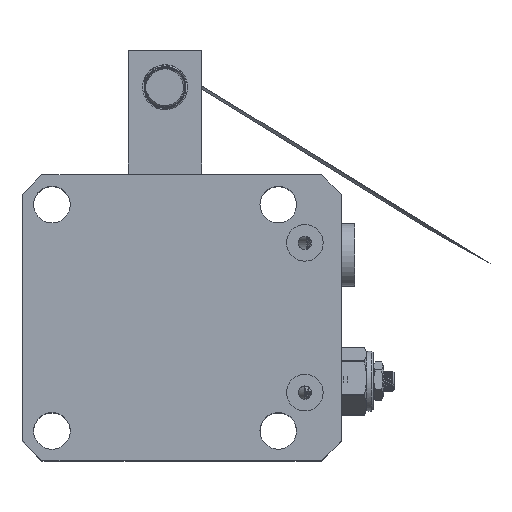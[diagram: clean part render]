
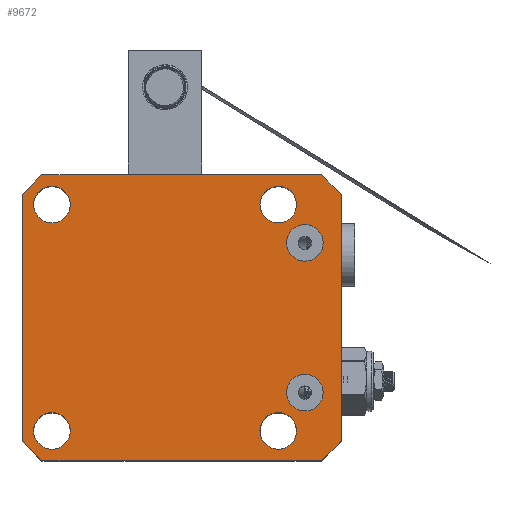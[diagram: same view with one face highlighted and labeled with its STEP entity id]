
A CAD part, top view. The second image highlights one B-rep face of the part: STEP entity #9672.
In plain terms, the highlighted planar face has unit normal (0, 0, 1).
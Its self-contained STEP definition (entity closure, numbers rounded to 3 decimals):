
#1364=FACE_BOUND('',#2186,.T.);
#1365=FACE_BOUND('',#2187,.T.);
#1366=FACE_BOUND('',#2188,.T.);
#1367=FACE_BOUND('',#2189,.T.);
#1368=FACE_BOUND('',#2190,.T.);
#1369=FACE_BOUND('',#2191,.T.);
#1436=PLANE('',#10581);
#1635=FACE_OUTER_BOUND('',#2185,.T.);
#2185=EDGE_LOOP('',(#6900,#6901,#6902,#6903,#6904,#6905,#6906,#6907));
#2186=EDGE_LOOP('',(#6908));
#2187=EDGE_LOOP('',(#6909));
#2188=EDGE_LOOP('',(#6910));
#2189=EDGE_LOOP('',(#6911));
#2190=EDGE_LOOP('',(#6912));
#2191=EDGE_LOOP('',(#6913));
#2801=LINE('',#15555,#3331);
#2802=LINE('',#15557,#3332);
#2803=LINE('',#15559,#3333);
#2804=LINE('',#15561,#3334);
#2805=LINE('',#15563,#3335);
#2806=LINE('',#15565,#3336);
#2807=LINE('',#15567,#3337);
#2808=LINE('',#15568,#3338);
#3331=VECTOR('',#11481,1000.);
#3332=VECTOR('',#11482,1000.);
#3333=VECTOR('',#11483,1000.);
#3334=VECTOR('',#11484,1000.);
#3335=VECTOR('',#11485,1000.);
#3336=VECTOR('',#11486,1000.);
#3337=VECTOR('',#11487,1000.);
#3338=VECTOR('',#11488,1000.);
#3830=CIRCLE('',#10536,5.5);
#3832=CIRCLE('',#10539,5.5);
#3834=CIRCLE('',#10542,5.5);
#3836=CIRCLE('',#10545,5.5);
#3838=CIRCLE('',#10548,5.5);
#3840=CIRCLE('',#10551,5.5);
#4139=VERTEX_POINT('',#14701);
#4141=VERTEX_POINT('',#14707);
#4143=VERTEX_POINT('',#14713);
#4145=VERTEX_POINT('',#14719);
#4147=VERTEX_POINT('',#14725);
#4149=VERTEX_POINT('',#14731);
#4196=VERTEX_POINT('',#15553);
#4197=VERTEX_POINT('',#15554);
#4198=VERTEX_POINT('',#15556);
#4199=VERTEX_POINT('',#15558);
#4200=VERTEX_POINT('',#15560);
#4201=VERTEX_POINT('',#15562);
#4202=VERTEX_POINT('',#15564);
#4203=VERTEX_POINT('',#15566);
#5236=EDGE_CURVE('',#4139,#4139,#3830,.T.);
#5239=EDGE_CURVE('',#4141,#4141,#3832,.T.);
#5242=EDGE_CURVE('',#4143,#4143,#3834,.T.);
#5245=EDGE_CURVE('',#4145,#4145,#3836,.T.);
#5248=EDGE_CURVE('',#4147,#4147,#3838,.T.);
#5251=EDGE_CURVE('',#4149,#4149,#3840,.T.);
#5326=EDGE_CURVE('',#4196,#4197,#2801,.T.);
#5327=EDGE_CURVE('',#4197,#4198,#2802,.T.);
#5328=EDGE_CURVE('',#4198,#4199,#2803,.T.);
#5329=EDGE_CURVE('',#4199,#4200,#2804,.T.);
#5330=EDGE_CURVE('',#4200,#4201,#2805,.T.);
#5331=EDGE_CURVE('',#4201,#4202,#2806,.T.);
#5332=EDGE_CURVE('',#4202,#4203,#2807,.T.);
#5333=EDGE_CURVE('',#4203,#4196,#2808,.T.);
#6900=ORIENTED_EDGE('',*,*,#5326,.T.);
#6901=ORIENTED_EDGE('',*,*,#5327,.T.);
#6902=ORIENTED_EDGE('',*,*,#5328,.T.);
#6903=ORIENTED_EDGE('',*,*,#5329,.T.);
#6904=ORIENTED_EDGE('',*,*,#5330,.T.);
#6905=ORIENTED_EDGE('',*,*,#5331,.T.);
#6906=ORIENTED_EDGE('',*,*,#5332,.T.);
#6907=ORIENTED_EDGE('',*,*,#5333,.T.);
#6908=ORIENTED_EDGE('',*,*,#5242,.T.);
#6909=ORIENTED_EDGE('',*,*,#5245,.T.);
#6910=ORIENTED_EDGE('',*,*,#5248,.T.);
#6911=ORIENTED_EDGE('',*,*,#5251,.T.);
#6912=ORIENTED_EDGE('',*,*,#5236,.F.);
#6913=ORIENTED_EDGE('',*,*,#5239,.F.);
#9672=ADVANCED_FACE('',(#1635,#1364,#1365,#1366,#1367,#1368,#1369),#1436,
 .T.);
#10536=AXIS2_PLACEMENT_3D('',#14703,#11372,#11373);
#10539=AXIS2_PLACEMENT_3D('',#14709,#11379,#11380);
#10542=AXIS2_PLACEMENT_3D('',#14715,#11386,#11387);
#10545=AXIS2_PLACEMENT_3D('',#14721,#11393,#11394);
#10548=AXIS2_PLACEMENT_3D('',#14727,#11400,#11401);
#10551=AXIS2_PLACEMENT_3D('',#14733,#11407,#11408);
#10581=AXIS2_PLACEMENT_3D('',#15552,#11479,#11480);
#11372=DIRECTION('center_axis',(0.,0.,1.));
#11373=DIRECTION('ref_axis',(1.,0.,0.));
#11379=DIRECTION('center_axis',(0.,0.,1.));
#11380=DIRECTION('ref_axis',(1.,0.,0.));
#11386=DIRECTION('center_axis',(0.,0.,
-1.));
#11387=DIRECTION('ref_axis',(0.,-1.,0.));
#11393=DIRECTION('center_axis',(0.,0.,-1.));
#11394=DIRECTION('ref_axis',(0.,-1.,0.));
#11400=DIRECTION('center_axis',(0.,0.,-1.));
#11401=DIRECTION('ref_axis',(0.,-1.,0.));
#11407=DIRECTION('center_axis',(0.,0.,
-1.));
#11408=DIRECTION('ref_axis',(0.,-1.,0.));
#11479=DIRECTION('center_axis',(0.,0.,1.));
#11480=DIRECTION('ref_axis',(1.,0.,0.));
#11481=DIRECTION('',(0.,1.,0.));
#11482=DIRECTION('',(-0.707,0.707,0.));
#11483=DIRECTION('',(-1.,0.,0.));
#11484=DIRECTION('',(-0.707,-0.707,0.));
#11485=DIRECTION('',(0.,-1.,0.));
#11486=DIRECTION('',(0.707,-0.707,0.));
#11487=DIRECTION('',(1.,0.,0.));
#11488=DIRECTION('',(0.707,0.707,0.));
#14701=CARTESIAN_POINT('',(36.5,-22.5,47.5));
#14703=CARTESIAN_POINT('Origin',(42.,-22.5,47.5));
#14707=CARTESIAN_POINT('',(36.5,22.5,47.5));
#14709=CARTESIAN_POINT('Origin',(42.,22.5,47.5));
#14713=CARTESIAN_POINT('',(-34.,-28.5,47.5));
#14715=CARTESIAN_POINT('Origin',(-34.,-34.,47.5));
#14719=CARTESIAN_POINT('',(34.,-28.5,47.5));
#14721=CARTESIAN_POINT('Origin',(34.,-34.,47.5));
#14725=CARTESIAN_POINT('',(34.,39.5,47.5));
#14727=CARTESIAN_POINT('Origin',(34.,34.,47.5));
#14731=CARTESIAN_POINT('',(-34.,39.5,47.5));
#14733=CARTESIAN_POINT('Origin',(-34.,34.,47.5));
#15552=CARTESIAN_POINT('Origin',(-43.,-43.,47.5));
#15553=CARTESIAN_POINT('',(53.,-37.,47.5));
#15554=CARTESIAN_POINT('',(53.,37.,47.5));
#15555=CARTESIAN_POINT('',(53.,-43.,47.5));
#15556=CARTESIAN_POINT('',(47.,43.,47.5));
#15557=CARTESIAN_POINT('',(53.,37.,47.5));
#15558=CARTESIAN_POINT('',(-37.,43.,47.5));
#15559=CARTESIAN_POINT('',(-43.,43.,47.5));
#15560=CARTESIAN_POINT('',(-43.,37.,47.5));
#15561=CARTESIAN_POINT('',(-37.,43.,47.5));
#15562=CARTESIAN_POINT('',(-43.,-37.,47.5));
#15563=CARTESIAN_POINT('',(-43.,-43.,47.5));
#15564=CARTESIAN_POINT('',(-37.,-43.,47.5));
#15565=CARTESIAN_POINT('',(-43.,-37.,47.5));
#15566=CARTESIAN_POINT('',(47.,-43.,47.5));
#15567=CARTESIAN_POINT('',(-43.,-43.,47.5));
#15568=CARTESIAN_POINT('',(47.,-43.,47.5));
